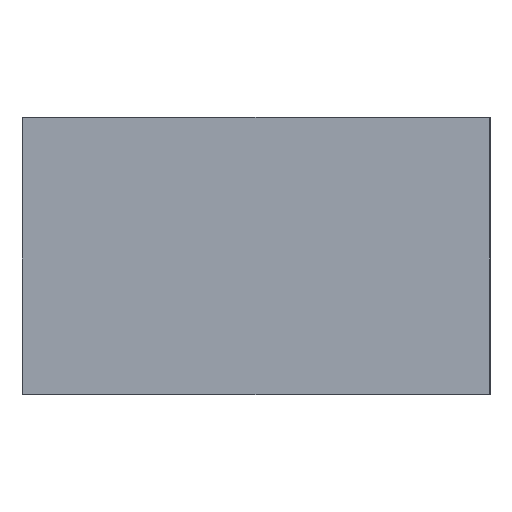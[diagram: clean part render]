
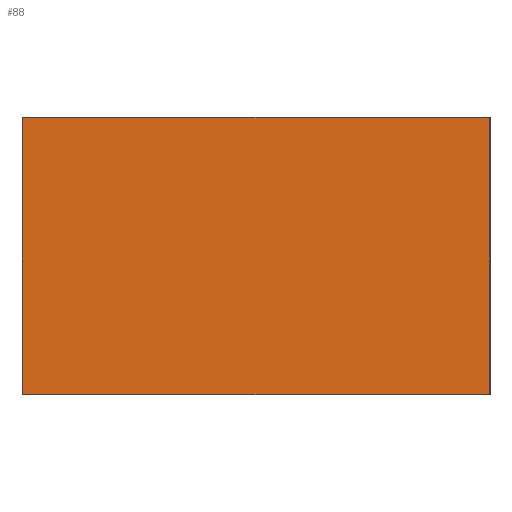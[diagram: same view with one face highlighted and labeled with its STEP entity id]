
A CAD part, top view. The second image highlights one B-rep face of the part: STEP entity #88.
In plain terms, the highlighted planar face has unit normal (0, 0, 1).
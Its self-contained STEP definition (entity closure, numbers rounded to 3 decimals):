
#88=ADVANCED_FACE('',(#275),#2565,.T.);
#275=FACE_OUTER_BOUND('',#462,.T.);
#462=EDGE_LOOP('',(#698,#699,#700,#701,#702,#703,#704,#705));
#698=ORIENTED_EDGE('',*,*,#1498,.T.);
#699=ORIENTED_EDGE('',*,*,#1455,.T.);
#700=ORIENTED_EDGE('',*,*,#1501,.T.);
#701=ORIENTED_EDGE('',*,*,#1456,.T.);
#702=ORIENTED_EDGE('',*,*,#1494,.T.);
#703=ORIENTED_EDGE('',*,*,#1457,.T.);
#704=ORIENTED_EDGE('',*,*,#1496,.T.);
#705=ORIENTED_EDGE('',*,*,#1454,.T.);
#1454=EDGE_CURVE('',#2221,#2219,#2114,.T.);
#1455=EDGE_CURVE('',#2220,#2225,#2115,.T.);
#1456=EDGE_CURVE('',#2226,#2223,#2116,.T.);
#1457=EDGE_CURVE('',#2224,#2222,#2117,.T.);
#1494=EDGE_CURVE('',#2223,#2224,#1835,.T.);
#1496=EDGE_CURVE('',#2222,#2221,#1837,.T.);
#1498=EDGE_CURVE('',#2219,#2220,#1839,.T.);
#1501=EDGE_CURVE('',#2225,#2226,#1841,.T.);
#1835=(
BOUNDED_CURVE()
B_SPLINE_CURVE(2,(#3043,#3044,#3045),.UNSPECIFIED.,.F.,.F.)
B_SPLINE_CURVE_WITH_KNOTS((3,3),(0.,1.571),
 .UNSPECIFIED.)
CURVE()
GEOMETRIC_REPRESENTATION_ITEM()
RATIONAL_B_SPLINE_CURVE((1.,0.707,1.))
REPRESENTATION_ITEM('')
);
#1837=(
BOUNDED_CURVE()
B_SPLINE_CURVE(2,(#3049,#3050,#3051),.UNSPECIFIED.,.F.,.F.)
B_SPLINE_CURVE_WITH_KNOTS((3,3),(0.,1.571),
 .UNSPECIFIED.)
CURVE()
GEOMETRIC_REPRESENTATION_ITEM()
RATIONAL_B_SPLINE_CURVE((1.,0.707,1.))
REPRESENTATION_ITEM('')
);
#1839=(
BOUNDED_CURVE()
B_SPLINE_CURVE(2,(#3055,#3056,#3057),.UNSPECIFIED.,.F.,.F.)
B_SPLINE_CURVE_WITH_KNOTS((3,3),(0.,1.571),.UNSPECIFIED.)
CURVE()
GEOMETRIC_REPRESENTATION_ITEM()
RATIONAL_B_SPLINE_CURVE((1.,0.707,1.))
REPRESENTATION_ITEM('')
);
#1841=(
BOUNDED_CURVE()
B_SPLINE_CURVE(2,(#3063,#3064,#3065),.UNSPECIFIED.,.F.,.F.)
B_SPLINE_CURVE_WITH_KNOTS((3,3),(0.,1.571),
 .UNSPECIFIED.)
CURVE()
GEOMETRIC_REPRESENTATION_ITEM()
RATIONAL_B_SPLINE_CURVE((1.,0.707,1.))
REPRESENTATION_ITEM('')
);
#2114=B_SPLINE_CURVE_WITH_KNOTS('',1,(#2954,#2955),.UNSPECIFIED.,.F.,.F.,
(2,2),(0.,584.48),.UNSPECIFIED.);
#2115=B_SPLINE_CURVE_WITH_KNOTS('',1,(#2956,#2957),.UNSPECIFIED.,.F.,.F.,
(2,2),(0.,987.38),.UNSPECIFIED.);
#2116=B_SPLINE_CURVE_WITH_KNOTS('',1,(#2958,#2959),.UNSPECIFIED.,.F.,.F.,
(2,2),(0.,584.48),.UNSPECIFIED.);
#2117=B_SPLINE_CURVE_WITH_KNOTS('',1,(#2960,#2961),.UNSPECIFIED.,.F.,.F.,
(2,2),(0.,987.38),.UNSPECIFIED.);
#2219=VERTEX_POINT('',#2918);
#2220=VERTEX_POINT('',#2919);
#2221=VERTEX_POINT('',#2920);
#2222=VERTEX_POINT('',#2921);
#2223=VERTEX_POINT('',#2922);
#2224=VERTEX_POINT('',#2923);
#2225=VERTEX_POINT('',#2924);
#2226=VERTEX_POINT('',#2925);
#2565=PLANE('',#2673);
#2673=AXIS2_PLACEMENT_3D('',#2822,#2747,$);
#2747=DIRECTION('',(0.,0.,1.));
#2822=CARTESIAN_POINT('',(-495.191,-293.74,911.));
#2918=CARTESIAN_POINT('',(494.689,292.24,911.));
#2919=CARTESIAN_POINT('',(493.689,293.24,911.));
#2920=CARTESIAN_POINT('',(494.689,-292.24,911.));
#2921=CARTESIAN_POINT('',(493.689,-293.24,911.));
#2922=CARTESIAN_POINT('',(-494.691,-292.24,911.));
#2923=CARTESIAN_POINT('',(-493.691,-293.24,911.));
#2924=CARTESIAN_POINT('',(-493.691,293.24,911.));
#2925=CARTESIAN_POINT('',(-494.691,292.24,911.));
#2954=CARTESIAN_POINT('',(494.689,-292.24,911.));
#2955=CARTESIAN_POINT('',(494.689,292.24,911.));
#2956=CARTESIAN_POINT('',(493.689,293.24,911.));
#2957=CARTESIAN_POINT('',(-493.691,293.24,911.));
#2958=CARTESIAN_POINT('',(-494.691,292.24,911.));
#2959=CARTESIAN_POINT('',(-494.691,-292.24,911.));
#2960=CARTESIAN_POINT('',(-493.691,-293.24,911.));
#2961=CARTESIAN_POINT('',(493.689,-293.24,911.));
#3043=CARTESIAN_POINT('',(-494.691,-292.24,911.));
#3044=CARTESIAN_POINT('',(-494.691,-293.24,911.));
#3045=CARTESIAN_POINT('',(-493.691,-293.24,911.));
#3049=CARTESIAN_POINT('',(493.689,-293.24,911.));
#3050=CARTESIAN_POINT('',(494.689,-293.24,911.));
#3051=CARTESIAN_POINT('',(494.689,-292.24,911.));
#3055=CARTESIAN_POINT('',(494.689,292.24,911.));
#3056=CARTESIAN_POINT('',(494.689,293.24,911.));
#3057=CARTESIAN_POINT('',(493.689,293.24,911.));
#3063=CARTESIAN_POINT('',(-493.691,293.24,911.));
#3064=CARTESIAN_POINT('',(-494.691,293.24,911.));
#3065=CARTESIAN_POINT('',(-494.691,292.24,911.));
